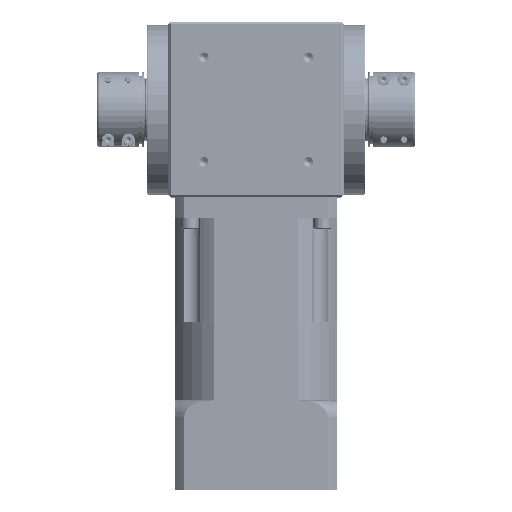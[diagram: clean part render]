
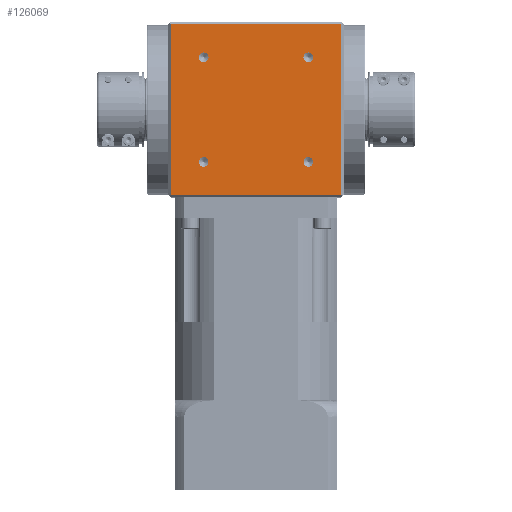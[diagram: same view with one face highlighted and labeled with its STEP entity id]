
A CAD part, top view. The second image highlights one B-rep face of the part: STEP entity #126069.
In plain terms, the highlighted planar face has unit normal (0, 0, 1).
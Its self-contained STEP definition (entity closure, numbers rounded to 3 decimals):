
#52 = CIRCLE ( 'NONE', #82598, 4.25 ) ;
#2675 = ORIENTED_EDGE ( 'NONE', *, *, #63611, .F. ) ;
#4445 = DIRECTION ( 'NONE',  ( 0., -1., 0. ) ) ;
#5781 = CARTESIAN_POINT ( 'NONE',  ( -45.962, 231.788, 77. ) ) ;
#7223 = CARTESIAN_POINT ( 'NONE',  ( 45.962, 236.038, 77. ) ) ;
#7718 = EDGE_CURVE ( 'NONE', #106500, #115503, #52, .T. ) ;
#8333 = ORIENTED_EDGE ( 'NONE', *, *, #80404, .F. ) ;
#8508 = AXIS2_PLACEMENT_3D ( 'NONE', #136238, #57698, #149405 ) ;
#9596 = VERTEX_POINT ( 'NONE', #63461 ) ;
#10677 = AXIS2_PLACEMENT_3D ( 'NONE', #151062, #72538, #164247 ) ;
#15500 = CARTESIAN_POINT ( 'NONE',  ( -74.872, 207., 77. ) ) ;
#16709 = DIRECTION ( 'NONE',  ( 0., 0., 1. ) ) ;
#18722 = LINE ( 'NONE', #27038, #123370 ) ;
#18803 = CARTESIAN_POINT ( 'NONE',  ( 74.872, 357., 77. ) ) ;
#19000 = EDGE_LOOP ( 'NONE', ( #115555, #39606, #23523, #165302 ) ) ;
#20439 = DIRECTION ( 'NONE',  ( 0., -1., 0. ) ) ;
#23523 = ORIENTED_EDGE ( 'NONE', *, *, #39475, .F. ) ;
#23938 = ORIENTED_EDGE ( 'NONE', *, *, #111799, .F. ) ;
#26447 = VERTEX_POINT ( 'NONE', #111465 ) ;
#27038 = CARTESIAN_POINT ( 'NONE',  ( -74.872, 0., 77. ) ) ;
#28956 = EDGE_LOOP ( 'NONE', ( #2675, #77066 ) ) ;
#31037 = CARTESIAN_POINT ( 'NONE',  ( -45.962, 327.962, 77. ) ) ;
#32133 = ORIENTED_EDGE ( 'NONE', *, *, #97243, .F. ) ;
#32622 = FACE_BOUND ( 'NONE', #143675, .T. ) ;
#36945 = VERTEX_POINT ( 'NONE', #51209 ) ;
#39475 = EDGE_CURVE ( 'NONE', #74225, #36945, #18722, .T. ) ;
#39606 = ORIENTED_EDGE ( 'NONE', *, *, #77836, .F. ) ;
#39964 = CARTESIAN_POINT ( 'NONE',  ( 45.962, 231.788, 77. ) ) ;
#42968 = LINE ( 'NONE', #130878, #112736 ) ;
#43518 = AXIS2_PLACEMENT_3D ( 'NONE', #161539, #82986, #4445 ) ;
#44227 = DIRECTION ( 'NONE',  ( 0., -1., 0. ) ) ;
#45980 = ORIENTED_EDGE ( 'NONE', *, *, #90896, .F. ) ;
#48825 = CARTESIAN_POINT ( 'NONE',  ( -45.962, 327.962, 77. ) ) ;
#49831 = VECTOR ( 'NONE', #72230, 1000. ) ;
#51209 = CARTESIAN_POINT ( 'NONE',  ( -74.872, 357., 77. ) ) ;
#51797 = CARTESIAN_POINT ( 'NONE',  ( -95., 359., 77. ) ) ;
#53261 = EDGE_CURVE ( 'NONE', #115503, #106500, #106933, .T. ) ;
#53824 = CARTESIAN_POINT ( 'NONE',  ( 45.962, 236.038, 77. ) ) ;
#54988 = CIRCLE ( 'NONE', #10677, 4.25 ) ;
#57698 = DIRECTION ( 'NONE',  ( 0., 0., 1. ) ) ;
#58589 = ORIENTED_EDGE ( 'NONE', *, *, #53261, .F. ) ;
#61990 = DIRECTION ( 'NONE',  ( 0., -1., 0. ) ) ;
#63461 = CARTESIAN_POINT ( 'NONE',  ( -45.962, 323.712, 77. ) ) ;
#63611 = EDGE_CURVE ( 'NONE', #70554, #87736, #85339, .T. ) ;
#64955 = DIRECTION ( 'NONE',  ( 0., 1., 0. ) ) ;
#66994 = DIRECTION ( 'NONE',  ( 0., -1., 0. ) ) ;
#67485 = FACE_BOUND ( 'NONE', #85563, .T. ) ;
#69850 = EDGE_CURVE ( 'NONE', #117258, #137120, #76662, .T. ) ;
#70062 = CIRCLE ( 'NONE', #43518, 4.25 ) ;
#70554 = VERTEX_POINT ( 'NONE', #39964 ) ;
#71390 = VERTEX_POINT ( 'NONE', #90375 ) ;
#72195 = VERTEX_POINT ( 'NONE', #137870 ) ;
#72230 = DIRECTION ( 'NONE',  ( -1., 0., 0. ) ) ;
#72538 = DIRECTION ( 'NONE',  ( 0., 0., 1. ) ) ;
#74225 = VERTEX_POINT ( 'NONE', #15500 ) ;
#76662 = LINE ( 'NONE', #152620, #111578 ) ;
#77066 = ORIENTED_EDGE ( 'NONE', *, *, #116590, .F. ) ;
#77836 = EDGE_CURVE ( 'NONE', #36945, #117258, #42968, .T. ) ;
#80404 = EDGE_CURVE ( 'NONE', #71390, #72195, #54988, .T. ) ;
#82533 = EDGE_LOOP ( 'NONE', ( #32133, #45980 ) ) ;
#82598 = AXIS2_PLACEMENT_3D ( 'NONE', #95225, #16709, #108445 ) ;
#82986 = DIRECTION ( 'NONE',  ( 0., 0., 1. ) ) ;
#85339 = CIRCLE ( 'NONE', #167886, 4.25 ) ;
#85563 = EDGE_LOOP ( 'NONE', ( #8333, #23938 ) ) ;
#87736 = VERTEX_POINT ( 'NONE', #122642 ) ;
#90017 = CIRCLE ( 'NONE', #163573, 4.25 ) ;
#90375 = CARTESIAN_POINT ( 'NONE',  ( 45.962, 323.712, 77. ) ) ;
#90717 = AXIS2_PLACEMENT_3D ( 'NONE', #31037, #122795, #44227 ) ;
#90896 = EDGE_CURVE ( 'NONE', #26447, #9596, #127714, .T. ) ;
#92367 = AXIS2_PLACEMENT_3D ( 'NONE', #51797, #143472, #64955 ) ;
#95225 = CARTESIAN_POINT ( 'NONE',  ( -45.962, 236.038, 77. ) ) ;
#97243 = EDGE_CURVE ( 'NONE', #9596, #26447, #90017, .T. ) ;
#99005 = DIRECTION ( 'NONE',  ( 0., 0., 1. ) ) ;
#100370 = CIRCLE ( 'NONE', #137247, 4.25 ) ;
#102392 = FACE_BOUND ( 'NONE', #82533, .T. ) ;
#106498 = FACE_BOUND ( 'NONE', #28956, .T. ) ;
#106500 = VERTEX_POINT ( 'NONE', #137663 ) ;
#106933 = CIRCLE ( 'NONE', #8508, 4.25 ) ;
#108445 = DIRECTION ( 'NONE',  ( 0., -1., 0. ) ) ;
#109250 = EDGE_CURVE ( 'NONE', #137120, #74225, #123722, .T. ) ;
#111465 = CARTESIAN_POINT ( 'NONE',  ( -45.962, 332.212, 77. ) ) ;
#111578 = VECTOR ( 'NONE', #113090, 1000. ) ;
#111799 = EDGE_CURVE ( 'NONE', #72195, #71390, #70062, .T. ) ;
#112736 = VECTOR ( 'NONE', #144056, 1000. ) ;
#113090 = DIRECTION ( 'NONE',  ( 0., -1., 0. ) ) ;
#115503 = VERTEX_POINT ( 'NONE', #5781 ) ;
#115555 = ORIENTED_EDGE ( 'NONE', *, *, #69850, .F. ) ;
#116590 = EDGE_CURVE ( 'NONE', #87736, #70554, #100370, .T. ) ;
#117258 = VERTEX_POINT ( 'NONE', #18803 ) ;
#122642 = CARTESIAN_POINT ( 'NONE',  ( 45.962, 240.288, 77. ) ) ;
#122795 = DIRECTION ( 'NONE',  ( 0., 0., 1. ) ) ;
#123370 = VECTOR ( 'NONE', #157761, 1000. ) ;
#123722 = LINE ( 'NONE', #137575, #49831 ) ;
#126069 = ADVANCED_FACE ( 'NONE', ( #102392, #67485, #106498, #32622, #168017 ), #169322, .F. ) ;
#127714 = CIRCLE ( 'NONE', #90717, 4.25 ) ;
#130878 = CARTESIAN_POINT ( 'NONE',  ( -95., 357., 77. ) ) ;
#133583 = CARTESIAN_POINT ( 'NONE',  ( 74.872, 207., 77. ) ) ;
#136238 = CARTESIAN_POINT ( 'NONE',  ( -45.962, 236.038, 77. ) ) ;
#137120 = VERTEX_POINT ( 'NONE', #133583 ) ;
#137247 = AXIS2_PLACEMENT_3D ( 'NONE', #53824, #145531, #66994 ) ;
#137575 = CARTESIAN_POINT ( 'NONE',  ( -95., 207., 77. ) ) ;
#137663 = CARTESIAN_POINT ( 'NONE',  ( -45.962, 240.288, 77. ) ) ;
#137870 = CARTESIAN_POINT ( 'NONE',  ( 45.962, 332.212, 77. ) ) ;
#140521 = DIRECTION ( 'NONE',  ( 0., 0., 1. ) ) ;
#143472 = DIRECTION ( 'NONE',  ( 0., 0., -1. ) ) ;
#143675 = EDGE_LOOP ( 'NONE', ( #58589, #160611 ) ) ;
#144056 = DIRECTION ( 'NONE',  ( 1., 0., 0. ) ) ;
#145531 = DIRECTION ( 'NONE',  ( 0., 0., 1. ) ) ;
#149405 = DIRECTION ( 'NONE',  ( 0., -1., 0. ) ) ;
#151062 = CARTESIAN_POINT ( 'NONE',  ( 45.962, 327.962, 77. ) ) ;
#152620 = CARTESIAN_POINT ( 'NONE',  ( 74.872, 0., 77. ) ) ;
#157761 = DIRECTION ( 'NONE',  ( 0., 1., 0. ) ) ;
#160611 = ORIENTED_EDGE ( 'NONE', *, *, #7718, .F. ) ;
#161539 = CARTESIAN_POINT ( 'NONE',  ( 45.962, 327.962, 77. ) ) ;
#163573 = AXIS2_PLACEMENT_3D ( 'NONE', #48825, #140521, #61990 ) ;
#164247 = DIRECTION ( 'NONE',  ( 0., -1., 0. ) ) ;
#165302 = ORIENTED_EDGE ( 'NONE', *, *, #109250, .F. ) ;
#167886 = AXIS2_PLACEMENT_3D ( 'NONE', #7223, #99005, #20439 ) ;
#168017 = FACE_OUTER_BOUND ( 'NONE', #19000, .T. ) ;
#169322 = PLANE ( 'NONE',  #92367 ) ;
